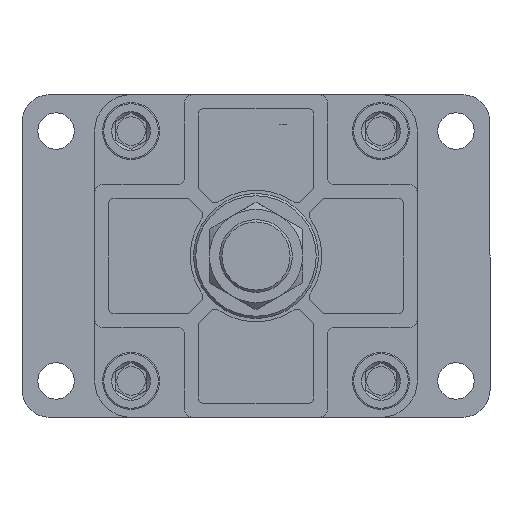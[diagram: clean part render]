
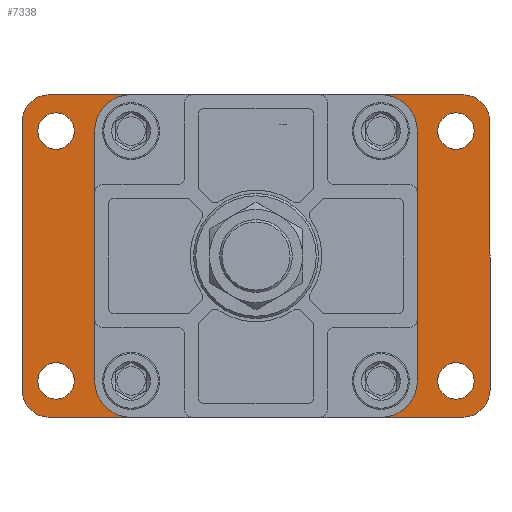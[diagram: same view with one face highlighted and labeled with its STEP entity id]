
A CAD part, front view. The second image highlights one B-rep face of the part: STEP entity #7338.
In plain terms, the highlighted planar face has unit normal (0, -1, 0) as drawn and (0, 1, 0) by its records, which use the part's own axes.
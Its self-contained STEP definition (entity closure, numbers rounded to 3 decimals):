
#498=CIRCLE('',#7954,28.5);
#499=CIRCLE('',#7955,7.5);
#500=CIRCLE('',#7956,7.5);
#501=CIRCLE('',#7957,7.5);
#502=CIRCLE('',#7958,7.5);
#503=CIRCLE('',#7959,8.);
#504=CIRCLE('',#7960,8.);
#505=CIRCLE('',#7961,8.);
#506=CIRCLE('',#7962,8.);
#507=CIRCLE('',#7963,12.);
#508=CIRCLE('',#7964,12.);
#509=CIRCLE('',#7965,12.);
#510=CIRCLE('',#7966,12.);
#1851=ORIENTED_EDGE('',*,*,#2687,.F.);
#1852=ORIENTED_EDGE('',*,*,#2688,.T.);
#1853=ORIENTED_EDGE('',*,*,#2689,.T.);
#1854=ORIENTED_EDGE('',*,*,#2690,.T.);
#1855=ORIENTED_EDGE('',*,*,#2691,.T.);
#1856=ORIENTED_EDGE('',*,*,#2692,.F.);
#1857=ORIENTED_EDGE('',*,*,#2693,.F.);
#1858=ORIENTED_EDGE('',*,*,#2694,.F.);
#1859=ORIENTED_EDGE('',*,*,#2695,.F.);
#1860=ORIENTED_EDGE('',*,*,#2660,.F.);
#1861=ORIENTED_EDGE('',*,*,#2696,.T.);
#1862=ORIENTED_EDGE('',*,*,#2670,.F.);
#1863=ORIENTED_EDGE('',*,*,#2697,.T.);
#1864=ORIENTED_EDGE('',*,*,#2668,.F.);
#1865=ORIENTED_EDGE('',*,*,#2698,.T.);
#1866=ORIENTED_EDGE('',*,*,#2664,.F.);
#1867=ORIENTED_EDGE('',*,*,#2699,.T.);
#2660=EDGE_CURVE('',#3198,#3199,#3650,.T.);
#2664=EDGE_CURVE('',#3202,#3203,#3654,.T.);
#2668=EDGE_CURVE('',#3206,#3207,#3658,.T.);
#2670=EDGE_CURVE('',#3208,#3209,#3660,.T.);
#2687=EDGE_CURVE('',#3221,#3221,#498,.F.);
#2688=EDGE_CURVE('',#3222,#3222,#499,.T.);
#2689=EDGE_CURVE('',#3223,#3223,#500,.T.);
#2690=EDGE_CURVE('',#3224,#3224,#501,.T.);
#2691=EDGE_CURVE('',#3225,#3225,#502,.T.);
#2692=EDGE_CURVE('',#3226,#3226,#503,.F.);
#2693=EDGE_CURVE('',#3227,#3227,#504,.F.);
#2694=EDGE_CURVE('',#3228,#3228,#505,.F.);
#2695=EDGE_CURVE('',#3229,#3229,#506,.F.);
#2696=EDGE_CURVE('',#3198,#3209,#507,.F.);
#2697=EDGE_CURVE('',#3208,#3207,#508,.F.);
#2698=EDGE_CURVE('',#3206,#3203,#509,.F.);
#2699=EDGE_CURVE('',#3202,#3199,#510,.F.);
#3198=VERTEX_POINT('',#11117);
#3199=VERTEX_POINT('',#11119);
#3202=VERTEX_POINT('',#11126);
#3203=VERTEX_POINT('',#11128);
#3206=VERTEX_POINT('',#11135);
#3207=VERTEX_POINT('',#11137);
#3208=VERTEX_POINT('',#11141);
#3209=VERTEX_POINT('',#11142);
#3221=VERTEX_POINT('',#11173);
#3222=VERTEX_POINT('',#11175);
#3223=VERTEX_POINT('',#11177);
#3224=VERTEX_POINT('',#11179);
#3225=VERTEX_POINT('',#11181);
#3226=VERTEX_POINT('',#11183);
#3227=VERTEX_POINT('',#11185);
#3228=VERTEX_POINT('',#11187);
#3229=VERTEX_POINT('',#11189);
#3650=LINE('',#11118,#4058);
#3654=LINE('',#11127,#4062);
#3658=LINE('',#11136,#4066);
#3660=LINE('',#11140,#4068);
#4058=VECTOR('',#9448,1000.);
#4062=VECTOR('',#9454,1000.);
#4066=VECTOR('',#9460,1000.);
#4068=VECTOR('',#9464,1000.);
#4440=EDGE_LOOP('',(#1851));
#4441=EDGE_LOOP('',(#1852));
#4442=EDGE_LOOP('',(#1853));
#4443=EDGE_LOOP('',(#1854));
#4444=EDGE_LOOP('',(#1855));
#4445=EDGE_LOOP('',(#1856));
#4446=EDGE_LOOP('',(#1857));
#4447=EDGE_LOOP('',(#1858));
#4448=EDGE_LOOP('',(#1859));
#4449=EDGE_LOOP('',(#1860,#1861,#1862,#1863,#1864,#1865,#1866,#1867));
#4884=FACE_BOUND('',#4440,.T.);
#4885=FACE_BOUND('',#4441,.T.);
#4886=FACE_BOUND('',#4442,.T.);
#4887=FACE_BOUND('',#4443,.T.);
#4888=FACE_BOUND('',#4444,.T.);
#4889=FACE_BOUND('',#4445,.T.);
#4890=FACE_BOUND('',#4446,.T.);
#4891=FACE_BOUND('',#4447,.T.);
#4892=FACE_BOUND('',#4448,.T.);
#4893=FACE_BOUND('',#4449,.T.);
#5121=PLANE('',#7953);
#7338=ADVANCED_FACE('',(#4884,#4885,#4886,#4887,#4888,#4889,#4890,#4891,
#4892,#4893),#5121,.F.);
#7953=AXIS2_PLACEMENT_3D('',#11171,#9496,#9497);
#7954=AXIS2_PLACEMENT_3D('',#11172,#9498,#9499);
#7955=AXIS2_PLACEMENT_3D('',#11174,#9500,#9501);
#7956=AXIS2_PLACEMENT_3D('',#11176,#9502,#9503);
#7957=AXIS2_PLACEMENT_3D('',#11178,#9504,#9505);
#7958=AXIS2_PLACEMENT_3D('',#11180,#9506,#9507);
#7959=AXIS2_PLACEMENT_3D('',#11182,#9508,#9509);
#7960=AXIS2_PLACEMENT_3D('',#11184,#9510,#9511);
#7961=AXIS2_PLACEMENT_3D('',#11186,#9512,#9513);
#7962=AXIS2_PLACEMENT_3D('',#11188,#9514,#9515);
#7963=AXIS2_PLACEMENT_3D('',#11190,#9516,#9517);
#7964=AXIS2_PLACEMENT_3D('',#11191,#9518,#9519);
#7965=AXIS2_PLACEMENT_3D('',#11192,#9520,#9521);
#7966=AXIS2_PLACEMENT_3D('',#11193,#9522,#9523);
#9448=DIRECTION('',(0.,0.,-1.));
#9454=DIRECTION('',(1.,0.,0.));
#9460=DIRECTION('',(0.,0.,1.));
#9464=DIRECTION('',(-1.,0.,0.));
#9496=DIRECTION('',(0.,-1.,0.));
#9497=DIRECTION('',(0.,0.,-1.));
#9498=DIRECTION('',(0.,-1.,0.));
#9499=DIRECTION('',(0.,0.,-1.));
#9500=DIRECTION('',(0.,-1.,0.));
#9501=DIRECTION('',(0.,0.,-1.));
#9502=DIRECTION('',(0.,-1.,0.));
#9503=DIRECTION('',(0.,0.,-1.));
#9504=DIRECTION('',(0.,-1.,0.));
#9505=DIRECTION('',(0.,0.,-1.));
#9506=DIRECTION('',(0.,-1.,0.));
#9507=DIRECTION('',(0.,0.,-1.));
#9508=DIRECTION('',(0.,-1.,0.));
#9509=DIRECTION('',(0.,0.,-1.));
#9510=DIRECTION('',(0.,-1.,0.));
#9511=DIRECTION('',(0.,0.,-1.));
#9512=DIRECTION('',(0.,-1.,0.));
#9513=DIRECTION('',(0.,0.,-1.));
#9514=DIRECTION('',(0.,-1.,0.));
#9515=DIRECTION('',(0.,0.,-1.));
#9516=DIRECTION('',(0.,-1.,0.));
#9517=DIRECTION('',(0.,0.,-1.));
#9518=DIRECTION('',(0.,-1.,0.));
#9519=DIRECTION('',(0.,0.,-1.));
#9520=DIRECTION('',(0.,-1.,0.));
#9521=DIRECTION('',(0.,0.,-1.));
#9522=DIRECTION('',(0.,-1.,0.));
#9523=DIRECTION('',(0.,0.,-1.));
#11117=CARTESIAN_POINT('',(-103.,0.,59.));
#11118=CARTESIAN_POINT('',(-103.,0.,28.));
#11119=CARTESIAN_POINT('',(-103.,0.,-59.));
#11126=CARTESIAN_POINT('',(-91.,0.,-71.));
#11127=CARTESIAN_POINT('',(-43.,0.,-71.));
#11128=CARTESIAN_POINT('',(91.,0.,-71.));
#11135=CARTESIAN_POINT('',(103.,0.,-59.));
#11136=CARTESIAN_POINT('',(103.,0.,-28.));
#11137=CARTESIAN_POINT('',(103.,0.,59.));
#11140=CARTESIAN_POINT('',(43.,0.,71.));
#11141=CARTESIAN_POINT('',(91.,0.,71.));
#11142=CARTESIAN_POINT('',(-91.,0.,71.));
#11171=CARTESIAN_POINT('',(0.,0.,0.));
#11172=CARTESIAN_POINT('',(0.,0.,0.));
#11173=CARTESIAN_POINT('',(0.,0.,-28.5));
#11174=CARTESIAN_POINT('',(-55.,0.,-55.));
#11175=CARTESIAN_POINT('',(-55.,0.,-62.5));
#11176=CARTESIAN_POINT('',(55.,0.,-55.));
#11177=CARTESIAN_POINT('',(55.,0.,-62.5));
#11178=CARTESIAN_POINT('',(55.,0.,55.));
#11179=CARTESIAN_POINT('',(55.,0.,47.5));
#11180=CARTESIAN_POINT('',(-55.,0.,55.));
#11181=CARTESIAN_POINT('',(-55.,0.,47.5));
#11182=CARTESIAN_POINT('',(88.,0.,-55.));
#11183=CARTESIAN_POINT('',(88.,0.,-63.));
#11184=CARTESIAN_POINT('',(-88.,0.,-55.));
#11185=CARTESIAN_POINT('',(-88.,0.,-63.));
#11186=CARTESIAN_POINT('',(-88.,0.,55.));
#11187=CARTESIAN_POINT('',(-88.,0.,47.));
#11188=CARTESIAN_POINT('',(88.,0.,55.));
#11189=CARTESIAN_POINT('',(88.,0.,47.));
#11190=CARTESIAN_POINT('',(-91.,0.,59.));
#11191=CARTESIAN_POINT('',(91.,0.,59.));
#11192=CARTESIAN_POINT('',(91.,0.,-59.));
#11193=CARTESIAN_POINT('',(-91.,0.,-59.));
